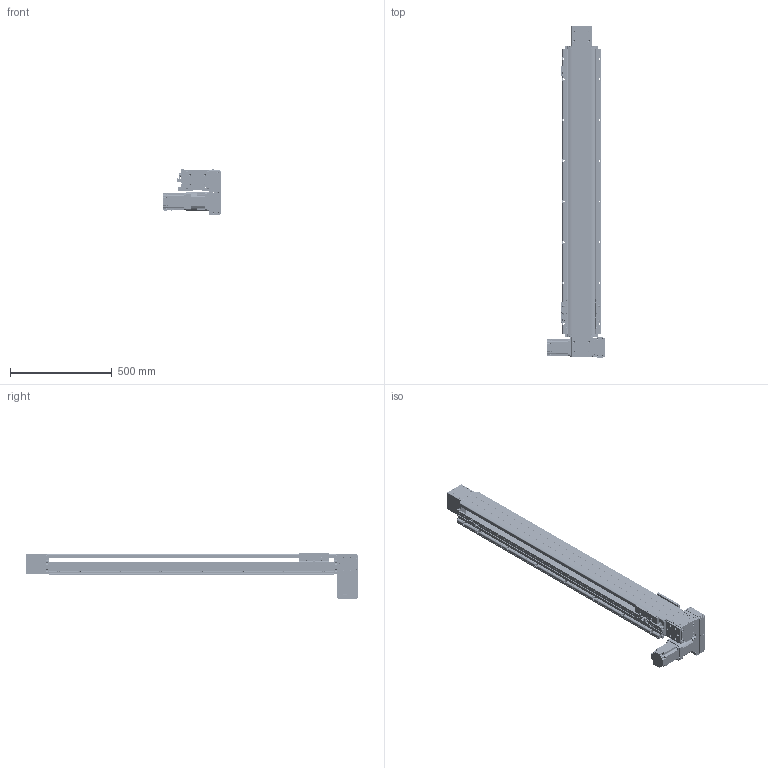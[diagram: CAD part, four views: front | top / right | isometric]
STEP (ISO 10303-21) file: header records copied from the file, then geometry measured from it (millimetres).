
FILE_DESCRIPTION(/* description */ (''),/* implementation_level */ '2;1');
FILE_NAME(/* name */ '\\192.168.0.160\disk1\HAN SHIN Master\B-설계부문\C-표준\B-2024년\BC02-표준도면\+로봇 개선표준도면\홈페이지 표준 도면\홈페이지 최종 작업 폴더\3D\HB\HB160-DR7G-N-1200-L.stp',/* time_stamp */ '2025-01-14T09:12:38+09:00',/* author */ ('user'),/* organization */ (''),/* preprocessor_version */ 'ST-DEVELOPER v18.1',/* originating_system */ 'Autodesk Inventor 2022',/* authorisation */ '');
FILE_SCHEMA (('AUTOMOTIVE_DESIGN { 1 0 10303 214 3 1 1 }'));
Products named in the file (41): HSB160-DR7G-N-0500-L; BASE; HSB160 TABLE (TEST); FORNT HOUSUNG-1 (Connecting); UPCOVER; HSB160 COVER-1; REAR HOUSUNG-1---; HSB160 REAR SHAFT-2; REAR SHAFT--2; 6004ZZ; 6004ZZ Outer ring; 6004ZZ Shield1; 6004ZZ Inner ring; 6004ZZ Ball; 6004ZZ Shield2; STOPPER3; TENSION PLATE; HSB160 ARC COVER; hsr_ftht_A-M6F_grease_nipple_joint; NIPPLE CAP(신규); HSB160 SHAFT-1; HSB160 END COVER; HR120 SENSOR DOG; SENSOR BRK(EE-SX674A); EE_SX674A; hg-kr73_; PGX90-H-1_3; 6206ZZ; 6206ZZ Outer ring; 6206ZZ Shield1; 6206ZZ Inner ring; 6206ZZ Ball; 6206ZZ Shield2; D MOTOR PLATE ASSY; HSB160 D MOTOR PLATE; HR160 400W LR BELT COVER; 750W MOTOR PLATE; HR180 ACRYL COVER - 1; HR180 ACRYL COVER - 1_1; HR180 ACRYL COVER - 1_2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
Assembly tree (85 placements, depth 3):
  HSB160-DR7G-N-0500-L
    BASE
    HSB160 TABLE (TEST)
    FORNT HOUSUNG-1 (Connecting)
    6206ZZ  x2
      6206ZZ Outer ring
      6206ZZ Shield1
      6206ZZ Inner ring
      6206ZZ Ball
      6206ZZ Shield2
    UPCOVER
    HSB160 COVER-1  x2
    REAR HOUSUNG-1---
    6004ZZ  x2
      6004ZZ Outer ring
      6004ZZ Shield1
      6004ZZ Inner ring
      6004ZZ Ball
      6004ZZ Shield2
    HSB160 REAR SHAFT-2
    REAR SHAFT--2
    TENSION PLATE  x2
    HSB160 ARC COVER  x4
    STOPPER3  x4
    hsr_ftht_A-M6F_grease_nipple_joint  x4
    NIPPLE CAP(신규)  x4
    HSB160 SHAFT-1
    HSB160 END COVER
    SENSOR BRK(EE-SX674A)  x3
    EE_SX674A  x3
    HR120 SENSOR DOG
    hg-kr73_
    PGX90-H-1_3
    D MOTOR PLATE ASSY
      HSB160 D MOTOR PLATE
      HR160 400W LR BELT COVER
      750W MOTOR PLATE
      HR180 ACRYL COVER - 1_2  x2
      HR180 ACRYL COVER - 1
      HR180 ACRYL COVER - 1_1
    HSB160 BEARING COVER_대칭도
Bounding box: 284.5 x 1628.5 x 226.5 mm (x, y, z)
Volume: 10108910.4 mm3; surface area: 2448972.9 mm2
Topology: 129 solids, 131 shells, 6398 faces, 17545 edges, 11538 vertices
Faces by surface type: plane 4492, cylinder 1367, cone 367, sphere 88, torus 59, bspline 25
Full cylindrical faces by diameter (mm): 2.013 x2, 2.459 x54, 3 x20, 3.242 x42, 3.4 x22, 3.5 x6, 4.134 x18, 4.2 x4, 4.5 x40, 4.917 x74, 5 x44, 5.1 x1, 5.5 x25, 5.6 x4, 5.9 x4, 6 x21, 6.5 x9, 6.6 x18, 6.8 x9, 7 x32, 7.6 x4, 8 x5, 8.376 x16, 8.433 x2, 9 x4, 9.5 x31, 10 x5, 11 x28, 15 x8, 18.5 x2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
Entity records: 116012 total; most frequent: CARTESIAN_POINT 22038, DIRECTION 19250, ORIENTED_EDGE 18694, EDGE_CURVE 9347, AXIS2_PLACEMENT_3D 6525, LINE 6200, VECTOR 6200, VERTEX_POINT 6179
